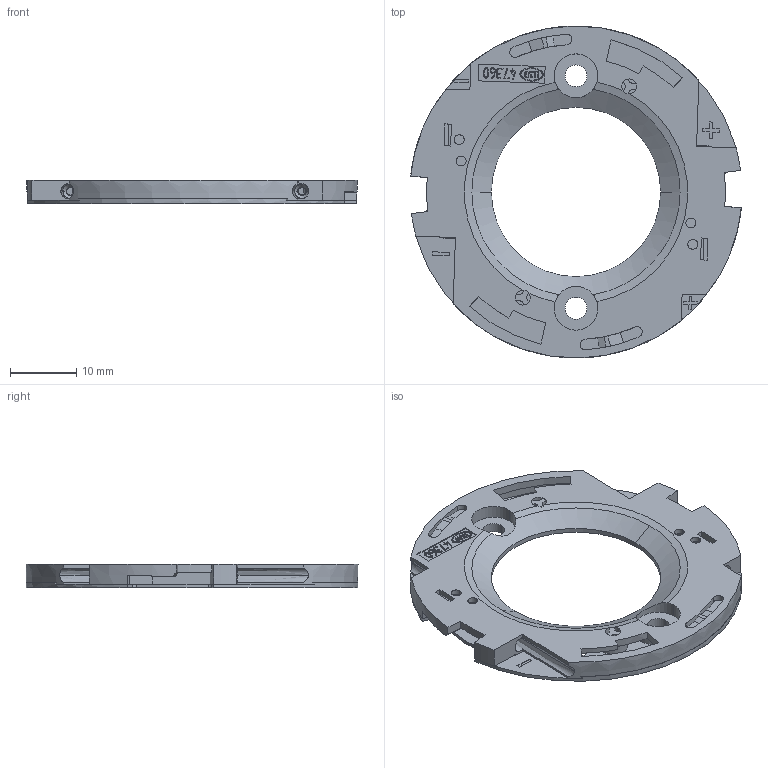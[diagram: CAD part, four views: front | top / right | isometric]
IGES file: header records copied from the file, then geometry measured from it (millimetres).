
Global section: file name: C:\CoreTechnologie\3D-in\01ZYR1CY04.igs; native system: CT CoreTechnologie 3D Evolution; preprocessor: 2006; date: 1180202.095303; units: millimetre
Bounding box: 49.77 x 50 x 3.5 mm (x, y, z)
Volume: 2760.7 mm3; surface area: 6665.1 mm2
Topology: 4 solids, 4 shells, 695 faces, 1909 edges, 1269 vertices
Faces by surface type: plane 471, revolution 190, bspline 34
